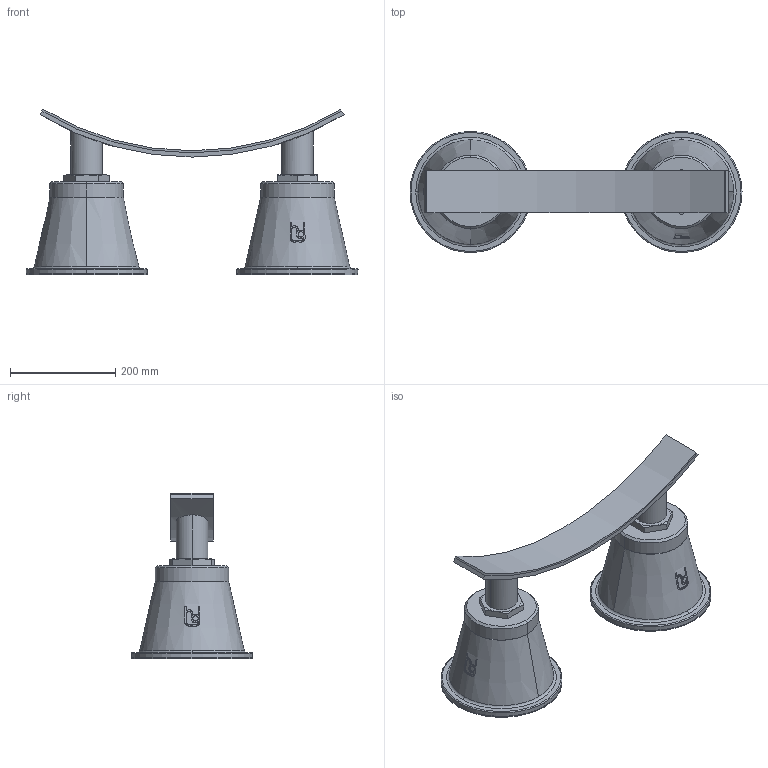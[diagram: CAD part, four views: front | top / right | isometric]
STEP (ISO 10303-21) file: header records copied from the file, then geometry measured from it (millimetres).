
FILE_DESCRIPTION(('STEP AP214'),'1');
FILE_NAME('RSRFN-DUO_DN1100.stp','2018-06-29T13:45:36',(' '),(' '),'Spatial InterOp 3D',' ',' ');
FILE_SCHEMA(('automotive_design'));
Length unit declared in the file: millimetre
Products named in the file (10): 1; 2; 3; 4; 5; 6; 7; 8; 9; 10
Bounding box: 630 x 230 x 314.72 mm (x, y, z)
Volume: 10186591.1 mm3; surface area: 887162.4 mm2
Topology: 10 solids, 12 shells, 210 faces, 506 edges, 330 vertices
Faces by surface type: cylinder 86, plane 82, cone 34, torus 8
Entity records: 9529 total; most frequent: CARTESIAN_POINT 2752, DIRECTION 1034, ORIENTED_EDGE 1012, EDGE_CURVE 506, AXIS2_PLACEMENT_3D 404, VERTEX_POINT 330, EDGE_LOOP 228, LINE 226
